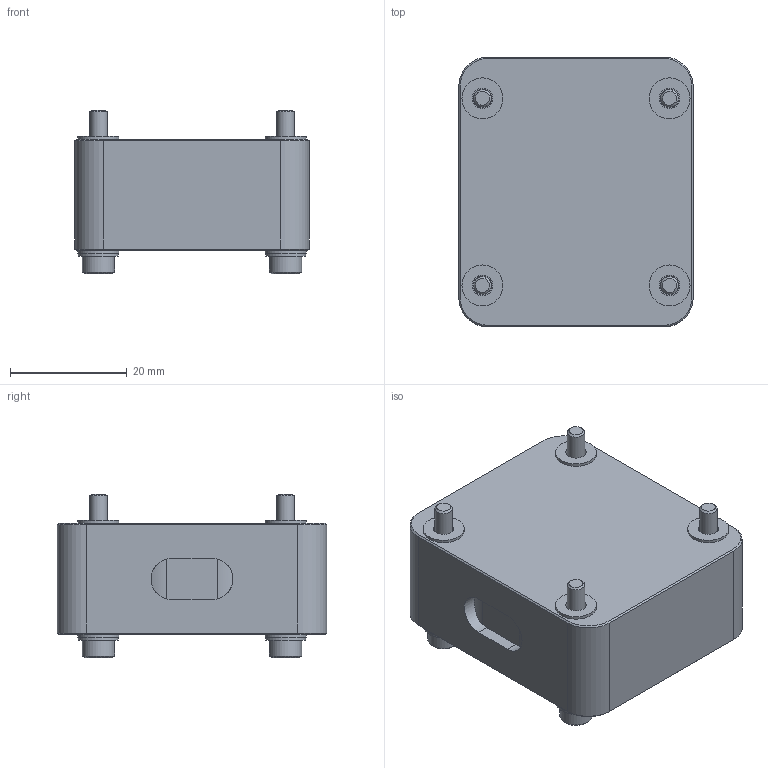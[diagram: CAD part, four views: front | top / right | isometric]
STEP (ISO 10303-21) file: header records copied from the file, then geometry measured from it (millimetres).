
FILE_DESCRIPTION(/* description */ (''),/* implementation_level */ '2;1');
FILE_NAME(/* name */ 'LA-RVI20-X3-P0_A.stp',/* time_stamp */ '2019-02-13T07:18:24+00:00',/* author */ (''),/* organization */ (''),/* preprocessor_version */ 'ST-DEVELOPER v16',/* originating_system */ 'SIEMENS PLM Software NX 10.0',/* authorisation */ '');
FILE_SCHEMA (('CONFIG_CONTROL_DESIGN'));
Length unit declared in the file: millimetre
Products named in the file (10): M-9533-0047-01_B; P50196_B; P-ASBG-0021_A; P-AD06-0006_A; P-AD06-0001_A; P-SC08-0325_A; P-WA01-0030_B; M-9904-0024-01_B; M-9904-0019-01_B; LA-RVI20-X3-P0_A
Assembly tree (15 placements, depth 2):
  LA-RVI20-X3-P0_A
    M-9904-0019-01_B
    M-9904-0024-01_B
    P-WA01-0030_B  x4
    P-SC08-0325_A  x4
    P-AD06-0001_A
    P-AD06-0006_A
    P-ASBG-0021_A
    P50196_B
    M-9533-0047-01_B
Bounding box: 40.1 x 46.1 x 28 mm (x, y, z)
Volume: 50901.3 mm3; surface area: 23593.9 mm2
Topology: 11 solids, 11 shells, 1352 faces, 3490 edges, 2316 vertices
Faces by surface type: plane 804, extrusion 352, cylinder 164, cone 32
Full cylindrical faces by diameter (mm): 3 x8, 3.3 x8, 3.5 x8, 5.5 x8, 6.85 x8, 7 x16
Entity records: 41833 total; most frequent: CARTESIAN_POINT 9974, ORIENTED_EDGE 6636, DIRECTION 5212, EDGE_CURVE 3318, VECTOR 2628, LINE 2276, VERTEX_POINT 2234, EDGE_LOOP 1516
